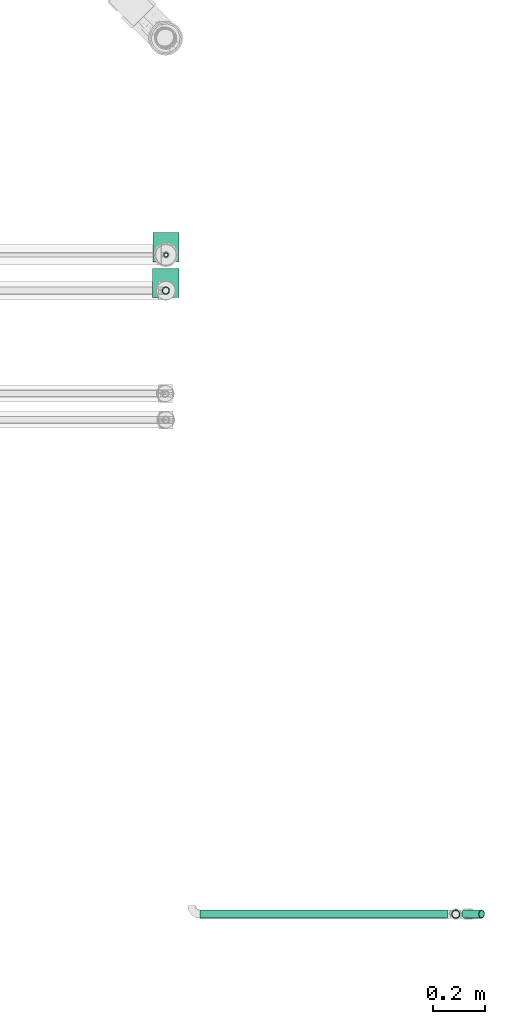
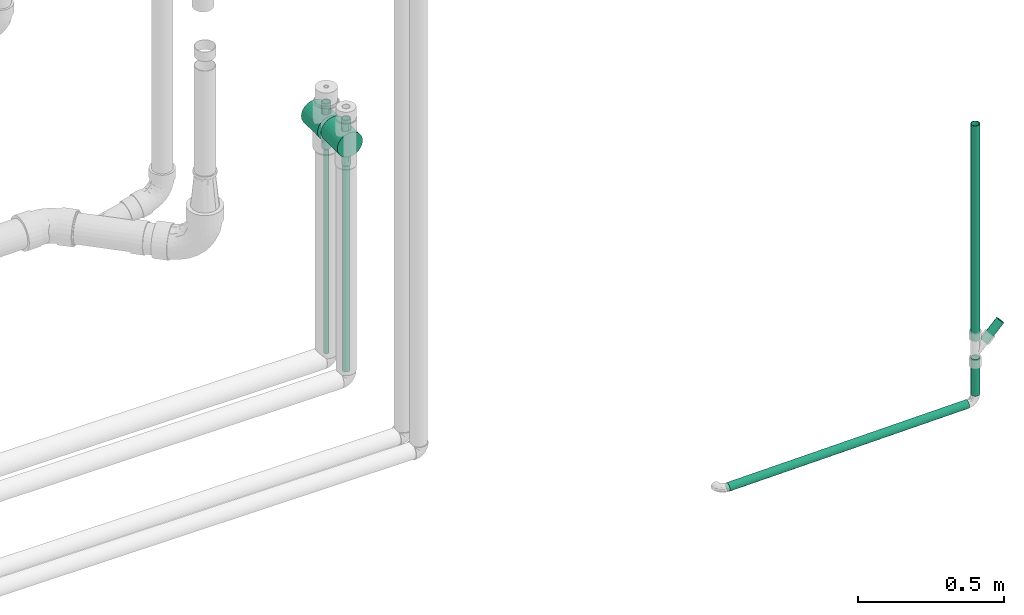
# One storey, part 33 of 83: 6 flow segments, 2 flow controllers.
"""IFC2X3 building model written with IfcOpenShell, lengths in millimetres."""

import ifcopenshell
import ifcopenshell.guid

model = None  # the IFC model being written
_history = None  # IfcOwnerHistory: only IFC2X3 demands one
_inside = {}  # id of a spatial element -> (the spatial element, [elements in it])
_under = {}  # id of a project, library or spatial element -> (it, [spatial elements below it])
_declared = {}  # id of a project -> (the project, [libraries it declares])
_typed = {}  # id of a type object -> (the type object, [elements of that type])
_made_of = {}  # id of a material, layer set ... -> (it, [elements and type objects made of it])


def new_model(schema):
    """Start an empty IFC model of exactly this schema.

    Asked for "IFC4X3", IfcOpenShell would pick the latest addendum, in which some entities
    have other attributes; the version numbers below select the first issue.
    IFC2X3 requires an IfcOwnerHistory on every rooted entity: one is made here for all.
    """
    global model, _history
    if schema == "IFC4X3":
        model = ifcopenshell.file(schema_version=(4, 3, 0, 0))
    else:
        model = ifcopenshell.file(schema=schema)
    _inside.clear()
    _under.clear()
    _declared.clear()
    _typed.clear()
    _made_of.clear()
    _history = None
    if model.schema == "IFC2X3":
        org = make("IfcOrganization", Name="unknown")
        user = make(
            "IfcPersonAndOrganization",
            ThePerson=make("IfcPerson", FamilyName="unknown"),
            TheOrganization=org,
        )
        app = make(
            "IfcApplication",
            ApplicationDeveloper=org,
            Version="unknown",
            ApplicationFullName="unknown",
            ApplicationIdentifier="unknown",
        )
        _history = make(
            "IfcOwnerHistory",
            OwningUser=user,
            OwningApplication=app,
            ChangeAction="ADDED",
            CreationDate=0,
        )
    return model


def make(cls, **values):
    """One entity of the class cls with the attributes given. An attribute that is None is left unset."""
    return model.create_entity(
        cls, **{name: value for name, value in values.items() if value is not None}
    )


def entity(cls, *values):
    """Any entity or typed value of the class cls, its attributes in the order of the schema. None: left unset."""
    e = model.create_entity(cls)
    for i, value in enumerate(values):
        if value is not None:
            e[i] = value
    return e


def rooted(cls, **values):
    """An entity with a GlobalId (a new one), such as an element, a storey or a relation."""
    return make(cls, GlobalId=ifcopenshell.guid.new(), OwnerHistory=_history, **values)


def si_unit(unit_type, name, prefix=None):
    """IfcSIUnit, for example si_unit("LENGTHUNIT", "METRE", prefix="MILLI")."""
    return make("IfcSIUnit", UnitType=unit_type, Prefix=prefix, Name=name)


def converted_unit(unit_type, name, factor, base, dimensions=None, offset=None):
    """IfcConversionBasedUnit, such as the inch: factor (a typed value) times the base unit."""
    return make(
        "IfcConversionBasedUnit"
        if offset is None
        else "IfcConversionBasedUnitWithOffset",
        ConversionOffset=offset,
        Dimensions=None
        if dimensions is None
        else entity("IfcDimensionalExponents", *dimensions),
        UnitType=unit_type,
        Name=name,
        ConversionFactor=make(
            "IfcMeasureWithUnit", ValueComponent=factor, UnitComponent=base
        ),
    )


def derived_unit(unit_type, elements):
    """IfcDerivedUnit: a product of units, each with its exponent."""
    return make(
        "IfcDerivedUnit",
        Elements=[
            make("IfcDerivedUnitElement", Unit=unit, Exponent=power)
            for unit, power in elements
        ],
        UnitType=unit_type,
    )


def assignment(units):
    """IfcUnitAssignment: the units of a project."""
    return None if units is None else make("IfcUnitAssignment", Units=units)


def point(xyz):
    """IfcCartesianPoint."""
    return None if xyz is None else make("IfcCartesianPoint", Coordinates=xyz)


def direction(xyz):
    """IfcDirection."""
    return None if xyz is None else make("IfcDirection", DirectionRatios=xyz)


def frame(location, z_axis=None, x_axis=None):
    """IfcAxis2Placement3D, a coordinate frame: its origin and axes. An axis left out is left unset."""
    return make(
        "IfcAxis2Placement3D",
        Location=point(location),
        Axis=direction(z_axis),
        RefDirection=direction(x_axis),
    )


def frame_2d(location, x_axis=None):
    """IfcAxis2Placement2D, a coordinate frame in the plane: its origin and x axis."""
    return make(
        "IfcAxis2Placement2D", Location=point(location), RefDirection=direction(x_axis)
    )


def origin_with_axes():
    """The frame at (0, 0, 0) with the z axis (0, 0, 1) and the x axis (1, 0, 0) written out."""
    return frame((0.0, 0.0, 0.0), z_axis=(0.0, 0.0, 1.0), x_axis=(1.0, 0.0, 0.0))


def origin_2d_with_axis():
    """The frame at (0, 0) in the plane with the x axis (1, 0) written out."""
    return frame_2d((0.0, 0.0), x_axis=(1.0, 0.0))


def place(relative_to, where):
    """IfcLocalPlacement: puts the frame where relative to a parent placement (None: the world)."""
    return make(
        "IfcLocalPlacement", PlacementRelTo=relative_to, RelativePlacement=where
    )


def context(
    kind, dimensions, precision=None, world=None, true_north=None, identifier=None
):
    """IfcGeometricRepresentationContext, for example the 3D "Model" context."""
    return make(
        "IfcGeometricRepresentationContext",
        ContextIdentifier=identifier,
        ContextType=kind,
        CoordinateSpaceDimension=dimensions,
        Precision=precision,
        WorldCoordinateSystem=world,
        TrueNorth=true_north,
    )


def subcontext(parent, identifier, kind, view, scale=None):
    """IfcGeometricRepresentationSubContext, for example "Body" below "Model"."""
    return make(
        "IfcGeometricRepresentationSubContext",
        ContextIdentifier=identifier,
        ContextType=kind,
        ParentContext=parent,
        TargetScale=scale,
        TargetView=view,
    )


def project(units=None, contexts=None):
    """IfcProject with its units and contexts."""
    return rooted(
        "IfcProject",
        Name="project",
        RepresentationContexts=contexts,
        UnitsInContext=assignment(units),
    )


def spatial(cls, under=None, at=None, **own):
    """A site, building, storey or space (cls), placed at a placement, below another one or the project."""
    s = rooted(cls, ObjectPlacement=at, **own)
    if under is not None:
        _under.setdefault(under.id(), (under, []))[1].append(s)
    return s


def profile(cls, at=None, kind="AREA", **sizes):
    """A parametric profile (cls). Its sizes go by their IFC names, for example OverallWidth=200.0."""
    return make(cls, ProfileType=kind, Position=at, **sizes)


def hollow_circle(**sizes):
    """IfcCircleHollowProfileDef."""
    return profile("IfcCircleHollowProfileDef", **sizes)


def extrude(swept, where, along, depth):
    """IfcExtrudedAreaSolid: the profile swept, set in the frame where, extruded along a direction by depth."""
    return make(
        "IfcExtrudedAreaSolid",
        SweptArea=swept,
        Position=where,
        ExtrudedDirection=direction(along),
        Depth=depth,
    )


def faces_of(points, faces, orient=None, outer=None):
    """IfcFace entities. A face is a list of loops; a loop is a list of indices into points, from 0.

    orient and outer hold one flag for each loop. By default every Orientation is true, the
    first loop of a face is its IfcFaceOuterBound and the others are IfcFaceBound.
    """
    made = []
    for i, loops in enumerate(faces):
        bounds = []
        for j, loop in enumerate(loops):
            is_outer = j == 0 if outer is None else outer[i][j]
            bounds.append(
                make(
                    "IfcFaceOuterBound" if is_outer else "IfcFaceBound",
                    Bound=make("IfcPolyLoop", Polygon=[points[k] for k in loop]),
                    Orientation=True if orient is None else orient[i][j],
                )
            )
        made.append(make("IfcFace", Bounds=bounds))
    return made


def open_shell(faces, orient=None, outer=None):
    """The faces of one IfcOpenShell. surface_model builds it on its shared points."""
    return ("IfcOpenShell", faces, orient, outer)


def surface_model(cls, points, shells):
    """IfcFaceBasedSurfaceModel or IfcShellBasedSurfaceModel (cls): surfaces that need not close."""
    shared = [point(p) for p in points]
    made = [make(c, CfsFaces=faces_of(shared, fs, o, b)) for c, fs, o, b in shells]
    if cls == "IfcFaceBasedSurfaceModel":
        return make(cls, FbsmFaces=made)
    return make(cls, SbsmBoundary=made)


def shape(context_of_items, identifier, shape_type, items):
    """IfcShapeRepresentation: the items that make up one representation, for example the "Body"."""
    return make(
        "IfcShapeRepresentation",
        ContextOfItems=context_of_items,
        RepresentationIdentifier=identifier,
        RepresentationType=shape_type,
        Items=items,
    )


def source(mapping_origin, context_of_items, identifier, shape_type, items):
    """IfcRepresentationMap: a shape defined once, which mapped items show again and again."""
    return make(
        "IfcRepresentationMap",
        MappingOrigin=mapping_origin,
        MappedRepresentation=shape(context_of_items, identifier, shape_type, items),
    )


def transform(
    local_origin,
    x_axis=None,
    y_axis=None,
    z_axis=None,
    scale=None,
    scale2=None,
    scale3=None,
    uniform=True,
):
    """IfcCartesianTransformationOperator3D, or its non-uniform kind. x_axis, y_axis, z_axis: its Axis1, 2, 3."""
    if uniform:
        return make(
            "IfcCartesianTransformationOperator3D",
            Axis1=direction(x_axis),
            Axis2=direction(y_axis),
            LocalOrigin=point(local_origin),
            Scale=scale,
            Axis3=direction(z_axis),
        )
    return make(
        "IfcCartesianTransformationOperator3DnonUniform",
        Axis1=direction(x_axis),
        Axis2=direction(y_axis),
        LocalOrigin=point(local_origin),
        Scale=scale,
        Axis3=direction(z_axis),
        Scale2=scale2,
        Scale3=scale3,
    )


def mapped(mapping_source, mapping_target):
    """IfcMappedItem: shows the shape of a source again, moved by a transform."""
    return make(
        "IfcMappedItem", MappingSource=mapping_source, MappingTarget=mapping_target
    )


def made_of(thing, what):
    """Note that an element or type object is made of a material, layer set ...; save() writes the relation."""
    if what is not None:
        _made_of.setdefault(what.id(), (what, []))[1].append(thing)
    return thing


def type_object(cls, material=None, **own):
    """A type object (cls), such as IfcWallType, which elements share."""
    return made_of(rooted(cls, **own), material)


def element(
    cls,
    number,
    at=None,
    inside=None,
    cuts=None,
    type_object=None,
    material=None,
    context=None,
    identifier="Body",
    shape_type=None,
    held_by="IfcProductDefinitionShape",
    body=None,
    shapes=None,
    **own,
):
    """One element of the class cls, such as IfcWall. Its Tag is "e" and its number.

    at: its placement. inside: the storey or other place that contains it. cuts: it is an
    opening in that element (IfcRelVoidsElement). A single representation is given by context,
    identifier, shape_type and body (its items); several are given by shapes. held_by: the class
    of the entity that holds the representations. save() writes the other relations.
    """
    e = rooted(cls, Tag="e%d" % number, ObjectPlacement=at, **own)
    if body is not None:
        shapes = [shape(context, identifier, shape_type, body)]
    if shapes is not None:
        e.Representation = make(held_by, Representations=shapes)
    if inside is not None:
        _inside.setdefault(inside.id(), (inside, []))[1].append(e)
    if cuts is not None:
        rooted(
            "IfcRelVoidsElement", RelatingBuildingElement=cuts, RelatedOpeningElement=e
        )
    if type_object is not None:
        _typed.setdefault(type_object.id(), (type_object, []))[1].append(e)
    return made_of(e, material)


def aggregate(whole, parts):
    """IfcRelAggregates: a whole, such as a stair, and the parts it consists of."""
    return rooted("IfcRelAggregates", RelatingObject=whole, RelatedObjects=parts)


def save(model, path):
    """Write the relations noted so far, then the file.

    IfcRelAggregates (storeys below a building ...), IfcRelContainedInSpatialStructure (elements
    in a storey), IfcRelDefinesByType, IfcRelAssociatesMaterial and IfcRelDeclares: one each for
    every whole, place, type object, material and project.
    """
    for whole, parts in _under.values():
        aggregate(whole, parts)
    for where, things in _inside.values():
        rooted(
            "IfcRelContainedInSpatialStructure",
            RelatedElements=things,
            RelatingStructure=where,
        )
    for kind, things in _typed.values():
        rooted("IfcRelDefinesByType", RelatedObjects=things, RelatingType=kind)
    for what, things in _made_of.values():
        rooted("IfcRelAssociatesMaterial", RelatedObjects=things, RelatingMaterial=what)
    for by, libraries in _declared.values():
        rooted("IfcRelDeclares", RelatingContext=by, RelatedDefinitions=libraries)
    model.write(path)


model = new_model("IFC2X3")

# Units and contexts
model_context = context("Model", 3, precision=0.01, world=frame((0.0, 4.29681676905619e-09, 0.0)), true_north=direction((4.01073788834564e-13, 1.0)))
plan_context = context("Plan", 3, precision=0.01, world=frame((0.0, 4.29681676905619e-09, 0.0)), true_north=direction((4.01073788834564e-13, 1.0)))
body_context = subcontext(model_context, "Body", "Model", "MODEL_VIEW")
ifc_project = project(units=[converted_unit("PLANEANGLEUNIT", "DEGREE", entity("IfcPositiveLengthMeasure", 0.0174532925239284), si_unit("PLANEANGLEUNIT", "RADIAN"), dimensions=[0, 0, 0, 0, 0, 0, 0]), si_unit("AREAUNIT", "SQUARE_METRE"), si_unit("LENGTHUNIT", "METRE", prefix="MILLI"), si_unit("MASSUNIT", "GRAM", prefix="KILO"), si_unit("POWERUNIT", "WATT"), si_unit("PRESSUREUNIT", "PASCAL"), si_unit("FORCEUNIT", "NEWTON", prefix="KILO"), si_unit("ELECTRICVOLTAGEUNIT", "VOLT"), si_unit("ELECTRICCURRENTUNIT", "AMPERE"), si_unit("THERMODYNAMICTEMPERATUREUNIT", "DEGREE_CELSIUS"), si_unit("TIMEUNIT", "SECOND"), si_unit("VOLUMEUNIT", "CUBIC_METRE"), derived_unit("LINEARVELOCITYUNIT", [(si_unit("LENGTHUNIT", "METRE"), 1), (si_unit("TIMEUNIT", "SECOND"), -1)]), derived_unit("VOLUMETRICFLOWRATEUNIT", [(si_unit("VOLUMEUNIT", "CUBIC_METRE"), 1), (si_unit("TIMEUNIT", "SECOND"), -1)]), derived_unit("THERMALTRANSMITTANCEUNIT", [(si_unit("POWERUNIT", "WATT"), 1), (si_unit("THERMODYNAMICTEMPERATUREUNIT", "KELVIN"), -1), (si_unit("AREAUNIT", "SQUARE_METRE"), -1)]), derived_unit("SOUNDPRESSUREUNIT", [(si_unit("PRESSUREUNIT", "PASCAL"), 1)])], contexts=[model_context, plan_context])

# Site, building, storey
site_placement = place(None, frame((0.0, -4.29681676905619e-09, 0.0), z_axis=(0.0, 0.0, 1.0), x_axis=(1.0, 0.0, 0.0)))
site = spatial("IfcSite", under=ifc_project, at=site_placement, Name="ENGM", CompositionType="ELEMENT")
building_placement = place(site_placement, frame((0.0, 4.29681676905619e-09, 0.0), z_axis=(0.0, 0.0, 1.0), x_axis=(1.0, 0.0, 0.0)))
building = spatial("IfcBuilding", under=site, at=building_placement, Name="TI", CompositionType="ELEMENT")
storey_placement = place(building_placement, frame((0.0, 0.0, 204000.0), z_axis=(0.0, 0.0, 1.0), x_axis=(1.0, 0.0, 0.0)))
storey = spatial("IfcBuildingStorey", under=building, at=storey_placement, Name="Nivå D", CompositionType="ELEMENT", Elevation=204000.0)

# Flow controllers
flow_meter_type = type_object("IfcFlowMeterType", Name="FM-25", PredefinedType="FLOWMETER")
shared_shape_1 = source(origin_with_axes(), body_context, "Body", "SurfaceModel", [
    surface_model("IfcShellBasedSurfaceModel", [(95.0, 3.23524, 12.07407), (95.0, 0.0, 12.5), (49.0, 0.0, 12.5), (95.0, 8.83883, 8.83883), (95.0, 6.25, 10.82532), (48.33584, 8.04029, 9.57098), (48.81207, 4.28742, 11.74172), (47.79058, 10.81944, 6.26017), (95.0, 10.82532, 6.25), (47.42876, 12.30903, 2.17662), (95.0, 12.07407, 3.23524), (95.0, 12.5, 0.0), (47.42891, 12.30846, -2.17985), (95.0, 12.07407, -3.23524), (47.79071, 10.81887, -6.26115), (95.0, 10.82532, -6.25), (95.0, 6.25, -10.82532), (95.0, 8.83883, -8.83883), (48.33654, 8.03611, -9.57449), (95.0, 3.23524, -12.07407), (48.81214, 4.28661, -11.74202), (49.0, 0.0, -12.5), (95.0, 0.0, -12.5), (-95.0, 3.23524, 12.07407), (-48.81207, 4.28742, 11.74172), (-49.0, 0.0, 12.5), (-47.79058, 10.81944, 6.26017), (-48.33584, 8.04029, 9.57098), (-95.0, 8.83883, 8.83883), (-95.0, 6.25, 10.82532), (-95.0, 12.07407, 3.23524), (-47.42876, 12.30903, 2.17662), (-95.0, 0.0, 12.5), (-95.0, 10.82532, 6.25), (-95.0, 12.5, 0.0), (-47.42891, 12.30846, -2.17985), (-95.0, 12.07407, -3.23524), (-47.79071, 10.81887, -6.26115), (-95.0, 8.83883, -8.83883), (-48.33654, 8.03611, -9.57449), (-49.0, 0.0, -12.5), (-48.81214, 4.28661, -11.74202), (-95.0, 3.23524, -12.07407), (-95.0, 6.25, -10.82532), (-95.0, 0.0, -12.5), (-95.0, 10.82532, -6.25), (95.0, -3.23524, -12.07407), (95.0, -8.83883, -8.83883), (95.0, -6.25, -10.82532), (48.33654, -8.03611, -9.57449), (48.81214, -4.28661, -11.74202), (47.79071, -10.81887, -6.26115), (95.0, -10.82532, -6.25), (47.42891, -12.30846, -2.17985), (95.0, -12.07407, -3.23524), (95.0, -12.5, 0.0), (47.42876, -12.30903, 2.17662), (95.0, -12.07407, 3.23524), (47.79058, -10.81944, 6.26017), (95.0, -10.82532, 6.25), (95.0, -8.83883, 8.83883), (95.0, -6.25, 10.82532), (48.33584, -8.04029, 9.57098), (95.0, -3.23524, 12.07407), (48.81207, -4.28742, 11.74172), (-95.0, -3.23524, -12.07407), (-48.81214, -4.28661, -11.74202), (-47.79071, -10.81887, -6.26115), (-48.33654, -8.03611, -9.57449), (-95.0, -8.83883, -8.83883), (-95.0, -6.25, -10.82532), (-95.0, -12.07407, -3.23524), (-47.42891, -12.30846, -2.17985), (-95.0, -10.82532, -6.25), (-95.0, -12.5, 0.0), (-47.42876, -12.30903, 2.17662), (-95.0, -12.07407, 3.23524), (-47.79058, -10.81944, 6.26017), (-95.0, -8.83883, 8.83883), (-48.33584, -8.04029, 9.57098), (-95.0, -3.23524, 12.07407), (-48.81207, -4.28742, 11.74172), (-95.0, -6.25, 10.82532), (-95.0, -10.82532, 6.25), (-12.94095, 48.29629, 85.0), (-25.0, 43.30127, 85.0), (-35.35534, 35.35534, 85.0), (-43.30127, 25.0, 85.0), (-48.29629, 12.94095, 85.0), (25.0, 43.30127, 85.0), (50.0, 0.0, 85.0), (12.94095, 48.29629, 85.0), (0.0, 50.0, 85.0), (35.35534, 35.35534, 85.0), (48.29629, 12.94095, 85.0), (43.30127, 25.0, 85.0), (-48.29629, -12.94095, 85.0), (-50.0, 0.0, 85.0), (-43.30127, -25.0, 85.0), (-35.35534, -35.35534, 85.0), (0.0, -50.0, 85.0), (-12.94095, -48.29629, 85.0), (-25.0, -43.30127, 85.0), (35.35534, -35.35534, 85.0), (48.29629, -12.94095, 85.0), (43.30127, -25.0, 85.0), (12.94095, -48.29629, 85.0), (25.0, -43.30127, 85.0), (-48.29629, -12.94095, -26.5), (0.0, -50.0, -26.5), (-12.94095, -48.29629, -26.5), (-25.0, -43.30127, -26.5), (-35.35534, -35.35534, -26.5), (-43.30127, -25.0, -26.5), (35.35534, -35.35534, -26.5), (12.94095, -48.29629, -26.5), (25.0, -43.30127, -26.5), (48.29629, -12.94095, -26.5), (43.30127, -25.0, -26.5), (25.0, 43.30127, -26.5), (48.29629, 12.94095, -26.5), (50.0, 0.0, -26.5), (-48.29629, 12.94095, -26.5), (-12.94095, 48.29629, -26.5), (-43.30127, 25.0, -26.5), (-35.35534, 35.35534, -26.5), (-25.0, 43.30127, -26.5), (35.35534, 35.35534, -26.5), (43.30127, 25.0, -26.5), (12.94095, 48.29629, -26.5), (0.0, 50.0, -26.5), (-50.0, 0.0, -26.5), (48.85971, 10.61736, -12.63018), (48.72222, 9.70571, -26.5), (49.57407, 3.23524, -26.5), (49.83866, 2.83562, -15.99737), (49.14814, 6.47048, -26.5), (49.67733, 5.67124, -15.49474), (47.91841, 14.27678, -8.27185), (47.28715, 16.24578, 2.88524), (45.79878, 18.97048, -26.5), (-48.86088, 10.61196, -12.63473), (-48.72222, 9.70571, -26.5), (-49.83873, 2.83504, -15.99758), (-49.57407, 3.23524, -26.5), (48.86088, 10.61196, 12.63473), (47.91864, 14.27601, 8.27319), (49.67746, 5.67008, 15.49517), (50.0, 0.0, 16.5), (47.28688, 16.24656, -2.88086), (-47.28688, 16.24656, 2.88086), (-45.79878, 18.97048, -26.5), (-47.28715, 16.24578, -2.88524), (-47.91864, 14.27601, -8.27319), (-50.0, 0.0, -16.5), (-49.67746, 5.67008, -15.49517), (50.0, 0.0, -16.5), (-49.14814, 6.47048, -26.5), (-48.85971, 10.61736, 12.63018), (-49.67733, 5.67124, 15.49474), (-47.91841, 14.27678, 8.27185), (-50.0, 0.0, 16.5), (-48.86088, -10.61196, -12.63473), (-48.72222, -9.70571, -26.5), (-49.57407, -3.23524, -26.5), (-49.83873, -2.83504, -15.99758), (-49.14814, -6.47048, -26.5), (-49.67746, -5.67008, -15.49517), (-47.91864, -14.27601, -8.27319), (-47.28688, -16.24656, 2.88086), (-45.79878, -18.97048, -26.5), (49.83866, -2.83562, -15.99737), (49.57407, -3.23524, -26.5), (-48.85971, -10.61736, 12.63018), (-47.91841, -14.27678, 8.27185), (-49.67733, -5.67124, 15.49474), (-47.28715, -16.24578, -2.88524), (48.85971, -10.61736, -12.63018), (48.72222, -9.70571, -26.5), (49.67733, -5.67124, -15.49474), (45.79878, -18.97048, -26.5), (47.28715, -16.24578, 2.88524), (47.91841, -14.27678, -8.27185), (49.14814, -6.47048, -26.5), (47.28688, -16.24656, -2.88086), (48.86088, -10.61196, 12.63473), (49.67746, -5.67008, 15.49517), (47.91864, -14.27601, 8.27319), (95.0, -14.28942, -8.25), (95.0, -11.66726, -11.66726), (95.0, -15.93778, -4.27051), (95.0, -16.5, 0.0), (95.0, -8.25, -14.28942), (95.0, -4.27051, -15.93778), (95.0, 0.0, -16.5), (95.0, -15.93778, 4.27051), (95.0, -11.66726, 11.66726), (95.0, -14.28942, 8.25), (95.0, -8.25, 14.28942), (95.0, -4.27051, 15.93778), (95.0, 0.0, 16.5), (95.0, 4.27051, -15.93778), (95.0, 8.25, -14.28942), (95.0, 11.66726, -11.66726), (95.0, 14.28942, -8.25), (95.0, 15.93778, -4.27051), (95.0, 16.5, 0.0), (95.0, 8.25, 14.28942), (95.0, 11.66726, 11.66726), (95.0, 4.27051, 15.93778), (95.0, 15.93778, 4.27051), (95.0, 14.28942, 8.25), (-95.0, 14.28942, -8.25), (-95.0, 11.66726, -11.66726), (-95.0, 15.93778, -4.27051), (-95.0, 16.5, 0.0), (-95.0, 8.25, -14.28942), (-95.0, 4.27051, -15.93778), (-95.0, 0.0, -16.5), (-95.0, 15.93778, 4.27051), (-95.0, 11.66726, 11.66726), (-95.0, 14.28942, 8.25), (-95.0, 8.25, 14.28942), (-95.0, 4.27051, 15.93778), (-95.0, 0.0, 16.5), (-95.0, -4.27051, -15.93778), (-95.0, -8.25, -14.28942), (-95.0, -11.66726, -11.66726), (-95.0, -14.28942, -8.25), (-95.0, -15.93778, -4.27051), (-95.0, -16.5, 0.0), (-95.0, -8.25, 14.28942), (-95.0, -11.66726, 11.66726), (-95.0, -4.27051, 15.93778), (-95.0, -15.93778, 4.27051), (-95.0, -14.28942, 8.25), (47.60264, 15.26167, -5.57635), (49.83873, 2.83504, 15.99758), (47.60289, 15.26089, 5.57921), (47.28702, 16.24617, 0.00219), (-49.83866, 2.83562, 15.99737), (-47.60289, 15.26089, -5.57921), (-47.60264, 15.26167, 5.57635), (-47.28702, 16.24617, -0.00219), (47.60264, -15.26167, -5.57635), (47.60289, -15.26089, 5.57921), (49.83873, -2.83504, 15.99758), (47.28702, -16.24617, 0.00219), (-47.60289, -15.26089, -5.57921), (-47.60264, -15.26167, 5.57635), (-47.28702, -16.24617, -0.00219), (-49.83866, -2.83562, 15.99737), (47.33036, -12.68213, -25.5), (24.5, 42.43525, -25.5), (42.43525, -24.5, -25.5), (34.64823, -34.64823, -25.5), (24.5, -42.43525, -25.5), (-12.68213, 47.33036, -25.5), (12.68213, -47.33036, -25.5), (47.33036, 12.68213, -25.5), (42.43525, 24.5, -25.5), (49.0, 0.0, -25.5), (34.64823, 34.64823, -25.5), (12.68213, 47.33036, -25.5), (0.0, 49.0, -25.5), (-12.68213, -47.33036, -25.5), (0.0, -49.0, -25.5), (-34.64823, -34.64823, -25.5), (-24.5, -42.43525, -25.5), (-49.0, 0.0, -25.5), (-47.33036, -12.68213, -25.5), (-42.43525, -24.5, -25.5), (-24.5, 42.43525, -25.5), (-34.64823, 34.64823, -25.5), (-42.43525, 24.5, -25.5), (-47.33036, 12.68213, -25.5), (-42.43525, -24.5, 84.0), (-47.33036, -12.68213, 84.0), (-49.0, 0.0, 84.0), (-12.68213, 47.33036, 84.0), (-12.68213, -47.33036, 84.0), (-24.5, -42.43525, 84.0), (-34.64823, -34.64823, 84.0), (42.43525, -24.5, 84.0), (-42.43525, 24.5, 84.0), (-34.64823, 34.64823, 84.0), (-47.33036, 12.68213, 84.0), (-24.5, 42.43525, 84.0), (0.0, 49.0, 84.0), (24.5, 42.43525, 84.0), (12.68213, -47.33036, 84.0), (24.5, -42.43525, 84.0), (34.64823, -34.64823, 84.0), (34.64823, 34.64823, 84.0), (49.0, 0.0, 84.0), (47.33036, -12.68213, 84.0), (12.68213, 47.33036, 84.0), (47.33036, 12.68213, 84.0), (42.43525, 24.5, 84.0), (0.0, -49.0, 84.0), (48.58259, -3.17053, -25.5), (48.16518, -6.34107, -25.5), (48.58259, 3.17053, -25.5), (48.16518, 6.34107, -25.5), (47.74778, 9.5116, -25.5), (47.74778, -9.5116, -25.5), (-48.58259, -3.17053, -25.5), (-48.58259, 3.17053, -25.5), (-48.16518, 6.34107, -25.5), (-48.16518, -6.34107, -25.5), (-47.74778, -9.5116, -25.5), (-47.74778, 9.5116, -25.5)], [open_shell([[[0, 1, 2]], [[3, 4, 5]], [[6, 4, 0]], [[7, 8, 3]], [[6, 0, 2]], [[5, 4, 6]], [[9, 10, 7]], [[3, 5, 7]], [[11, 10, 9]], [[10, 8, 7]], [[11, 12, 13]], [[13, 14, 15]], [[16, 17, 18]], [[14, 17, 15]], [[19, 16, 20]], [[14, 18, 17]], [[13, 12, 14]], [[20, 21, 19]], [[16, 18, 20]], [[21, 22, 19]], [[9, 12, 11]], [[23, 24, 25]], [[26, 27, 28]], [[29, 27, 24]], [[26, 30, 31]], [[32, 23, 25]], [[23, 29, 24]], [[27, 29, 28]], [[28, 33, 26]], [[33, 30, 26]], [[30, 34, 31]], [[35, 36, 37]], [[37, 38, 39]], [[40, 41, 42]], [[43, 41, 39]], [[44, 40, 42]], [[34, 36, 35]], [[45, 37, 36]], [[39, 38, 43]], [[41, 43, 42]], [[38, 37, 45]], [[31, 34, 35]], [[46, 22, 21]], [[47, 48, 49]], [[50, 48, 46]], [[51, 52, 47]], [[50, 46, 21]], [[49, 48, 50]], [[53, 54, 51]], [[47, 49, 51]], [[55, 54, 53]], [[54, 52, 51]], [[55, 56, 57]], [[57, 58, 59]], [[59, 58, 60]], [[61, 60, 62]], [[58, 62, 60]], [[57, 56, 58]], [[2, 63, 64]], [[61, 62, 64]], [[1, 63, 2]], [[63, 61, 64]], [[53, 56, 55]], [[65, 66, 40]], [[67, 68, 69]], [[70, 68, 66]], [[67, 71, 72]], [[40, 44, 65]], [[66, 65, 70]], [[67, 69, 73]], [[67, 73, 71]], [[69, 68, 70]], [[71, 74, 72]], [[75, 76, 77]], [[77, 78, 79]], [[80, 25, 81]], [[32, 25, 80]], [[82, 81, 79]], [[82, 80, 81]], [[75, 74, 76]], [[77, 76, 83]], [[79, 78, 82]], [[78, 77, 83]], [[72, 74, 75]], [[84, 85, 86]], [[84, 86, 87]], [[84, 88, 89]], [[88, 84, 87]], [[90, 89, 88]], [[84, 91, 92]], [[84, 89, 91]], [[93, 94, 95]], [[94, 93, 89]], [[89, 90, 94]], [[96, 88, 97]], [[96, 98, 99]], [[96, 99, 100]], [[101, 100, 99]], [[101, 99, 102]], [[96, 100, 103]], [[104, 103, 105]], [[104, 90, 96]], [[103, 106, 107]], [[104, 96, 103]], [[100, 106, 103]], [[96, 90, 88]], [[108, 109, 110]], [[108, 110, 111]], [[112, 113, 108]], [[112, 108, 111]], [[109, 108, 114]], [[115, 114, 116]], [[115, 109, 114]], [[114, 117, 118]], [[117, 114, 119]], [[120, 121, 117]], [[119, 114, 108]], [[108, 122, 119]], [[123, 122, 124]], [[125, 126, 123]], [[125, 123, 124]], [[119, 122, 123]], [[120, 127, 128]], [[127, 120, 119]], [[123, 129, 119]], [[120, 117, 119]], [[130, 129, 123]], [[122, 108, 131]], [[120, 132, 133]], [[121, 134, 135]], [[136, 133, 137]], [[120, 138, 132]], [[119, 93, 127]], [[129, 89, 119]], [[139, 140, 128]], [[140, 138, 120]], [[127, 95, 128]], [[129, 130, 91]], [[141, 122, 142]], [[131, 143, 144]], [[145, 146, 94]], [[147, 145, 94]], [[147, 90, 148]], [[90, 147, 94]], [[146, 139, 94]], [[140, 139, 149]], [[137, 133, 132]], [[128, 95, 139]], [[139, 95, 94]], [[93, 95, 127]], [[119, 89, 93]], [[129, 91, 89]], [[150, 151, 152]], [[130, 92, 91]], [[86, 125, 124]], [[84, 123, 126]], [[125, 85, 126]], [[151, 150, 124]], [[122, 153, 151]], [[131, 154, 143]], [[144, 143, 155]], [[121, 135, 156]], [[141, 153, 122]], [[142, 157, 155]], [[134, 137, 135]], [[138, 140, 149]], [[153, 152, 151]], [[123, 84, 92]], [[87, 124, 150]], [[126, 85, 84]], [[86, 85, 125]], [[124, 87, 86]], [[150, 88, 87]], [[137, 134, 136]], [[142, 155, 141]], [[158, 159, 88]], [[160, 158, 88]], [[159, 97, 88]], [[97, 159, 161]], [[155, 157, 144]], [[160, 88, 150]], [[123, 92, 130]], [[108, 162, 163]], [[131, 164, 165]], [[166, 163, 167]], [[108, 168, 162]], [[111, 99, 112]], [[110, 102, 111]], [[169, 170, 113]], [[170, 168, 108]], [[121, 171, 172]], [[112, 99, 113]], [[110, 109, 101]], [[164, 167, 165]], [[131, 165, 154]], [[173, 174, 96]], [[175, 173, 96]], [[161, 175, 97]], [[97, 175, 96]], [[174, 169, 96]], [[169, 176, 170]], [[113, 98, 169]], [[169, 98, 96]], [[168, 170, 176]], [[99, 98, 113]], [[111, 102, 99]], [[110, 101, 102]], [[177, 117, 178]], [[178, 179, 177]], [[109, 100, 101]], [[103, 114, 118]], [[106, 115, 116]], [[114, 107, 116]], [[180, 181, 118]], [[117, 182, 180]], [[121, 156, 171]], [[172, 171, 179]], [[167, 163, 162]], [[177, 182, 117]], [[178, 183, 179]], [[167, 164, 166]], [[182, 184, 180]], [[115, 106, 100]], [[105, 118, 181]], [[116, 107, 106]], [[103, 107, 114]], [[118, 105, 103]], [[181, 104, 105]], [[181, 180, 184]], [[179, 183, 172]], [[185, 186, 104]], [[187, 185, 104]], [[186, 90, 104]], [[90, 186, 148]], [[187, 104, 181]], [[115, 100, 109]], [[188, 189, 52]], [[52, 189, 47]], [[188, 52, 54]], [[190, 54, 55]], [[54, 190, 188]], [[190, 55, 191]], [[46, 192, 193]], [[22, 193, 194]], [[46, 193, 22]], [[48, 47, 192]], [[46, 48, 192]], [[192, 47, 189]], [[191, 57, 195]], [[57, 191, 55]], [[195, 57, 59]], [[196, 197, 60]], [[59, 197, 195]], [[60, 197, 59]], [[61, 63, 198]], [[61, 198, 196]], [[63, 199, 198]], [[199, 63, 1]], [[199, 1, 200]], [[61, 196, 60]], [[19, 194, 201]], [[16, 201, 202]], [[16, 19, 201]], [[17, 16, 202]], [[202, 203, 17]], [[15, 203, 204]], [[203, 15, 17]], [[15, 204, 13]], [[13, 205, 11]], [[205, 13, 204]], [[11, 205, 206]], [[207, 4, 208]], [[0, 4, 209]], [[0, 209, 200]], [[209, 4, 207]], [[4, 3, 208]], [[200, 1, 0]], [[10, 206, 210]], [[206, 10, 11]], [[10, 210, 8]], [[211, 208, 3]], [[211, 8, 210]], [[211, 3, 8]], [[19, 22, 194]], [[212, 213, 45]], [[45, 213, 38]], [[212, 45, 36]], [[214, 36, 34]], [[36, 214, 212]], [[214, 34, 215]], [[42, 216, 217]], [[44, 217, 218]], [[42, 217, 44]], [[43, 38, 216]], [[42, 43, 216]], [[216, 38, 213]], [[215, 30, 219]], [[30, 215, 34]], [[219, 30, 33]], [[220, 221, 28]], [[33, 221, 219]], [[28, 221, 33]], [[29, 23, 222]], [[29, 222, 220]], [[23, 223, 222]], [[223, 23, 32]], [[223, 32, 224]], [[29, 220, 28]], [[65, 218, 225]], [[70, 225, 226]], [[70, 65, 225]], [[69, 70, 226]], [[226, 227, 69]], [[73, 227, 228]], [[227, 73, 69]], [[73, 228, 71]], [[71, 229, 74]], [[229, 71, 228]], [[74, 229, 230]], [[231, 82, 232]], [[80, 82, 233]], [[80, 233, 224]], [[233, 82, 231]], [[82, 78, 232]], [[224, 32, 80]], [[76, 230, 234]], [[230, 76, 74]], [[76, 234, 83]], [[235, 232, 78]], [[235, 83, 234]], [[235, 78, 83]], [[65, 44, 218]], [[147, 209, 207]], [[146, 208, 211]], [[207, 208, 145]], [[204, 236, 205]], [[200, 209, 237]], [[148, 200, 237]], [[209, 147, 237]], [[135, 194, 156]], [[145, 147, 207]], [[208, 146, 145]], [[238, 146, 211]], [[210, 139, 238]], [[135, 137, 201]], [[206, 149, 239]], [[204, 138, 236]], [[203, 138, 204]], [[137, 202, 201]], [[203, 202, 132]], [[149, 206, 205]], [[236, 149, 205]], [[239, 139, 206]], [[238, 211, 210]], [[138, 203, 132]], [[132, 202, 137]], [[206, 139, 210]], [[194, 135, 201]], [[224, 240, 223]], [[240, 159, 223]], [[220, 158, 160]], [[241, 212, 214]], [[159, 158, 222]], [[219, 242, 150]], [[159, 222, 223]], [[221, 242, 219]], [[158, 220, 222]], [[160, 221, 220]], [[242, 221, 160]], [[215, 219, 150]], [[241, 153, 212]], [[215, 150, 243]], [[215, 243, 152]], [[214, 152, 241]], [[240, 224, 161]], [[215, 152, 214]], [[216, 141, 155]], [[213, 153, 141]], [[154, 218, 143]], [[217, 155, 143]], [[153, 213, 212]], [[216, 213, 141]], [[155, 217, 216]], [[217, 143, 218]], [[193, 171, 194]], [[191, 184, 190]], [[244, 188, 190]], [[244, 182, 188]], [[197, 245, 195]], [[193, 179, 171]], [[246, 200, 148]], [[179, 193, 192]], [[171, 156, 194]], [[179, 192, 177]], [[188, 182, 189]], [[190, 184, 244]], [[189, 182, 177]], [[189, 177, 192]], [[191, 181, 247]], [[197, 187, 245]], [[196, 187, 197]], [[186, 198, 199]], [[196, 198, 185]], [[181, 191, 195]], [[245, 181, 195]], [[247, 184, 191]], [[187, 196, 185]], [[185, 198, 186]], [[200, 246, 199]], [[246, 186, 199]], [[218, 165, 225]], [[227, 162, 168]], [[167, 162, 226]], [[229, 248, 176]], [[249, 174, 235]], [[228, 248, 229]], [[226, 225, 167]], [[230, 169, 234]], [[165, 167, 225]], [[228, 227, 168]], [[168, 248, 228]], [[165, 218, 154]], [[226, 162, 227]], [[249, 235, 234]], [[230, 229, 176]], [[230, 176, 250]], [[230, 250, 169]], [[234, 169, 249]], [[231, 173, 175]], [[232, 174, 173]], [[161, 224, 251]], [[174, 232, 235]], [[233, 175, 251]], [[231, 232, 173]], [[233, 231, 175]], [[233, 251, 224]], [[252, 253, 254]], [[255, 254, 256]], [[254, 253, 257]], [[256, 254, 258]], [[257, 258, 254]], [[259, 260, 261]], [[262, 261, 260]], [[261, 262, 252]], [[262, 253, 252]], [[263, 264, 253]], [[265, 266, 258]], [[267, 268, 265]], [[257, 267, 258]], [[269, 270, 271]], [[257, 271, 267]], [[271, 257, 269]], [[272, 273, 257]], [[257, 253, 264]], [[274, 275, 273]], [[269, 257, 273]], [[269, 273, 275]], [[267, 265, 258]], [[276, 277, 278]], [[276, 278, 279]], [[280, 281, 282]], [[279, 282, 276]], [[279, 283, 282]], [[284, 285, 286]], [[279, 286, 285]], [[287, 279, 285]], [[279, 278, 286]], [[288, 289, 279]], [[280, 282, 283]], [[280, 283, 290]], [[291, 290, 292]], [[283, 279, 293]], [[292, 290, 283]], [[283, 294, 295]], [[279, 289, 293]], [[289, 288, 296]], [[297, 294, 298]], [[293, 298, 294]], [[283, 293, 294]], [[299, 280, 290]], [[289, 253, 293]], [[288, 264, 296]], [[263, 289, 296]], [[298, 293, 262]], [[294, 297, 6]], [[64, 294, 2]], [[2, 294, 6]], [[300, 301, 50]], [[297, 7, 5]], [[297, 5, 6]], [[9, 297, 298]], [[297, 9, 7]], [[253, 289, 263]], [[253, 262, 293]], [[260, 298, 262]], [[264, 263, 296]], [[50, 301, 49]], [[20, 302, 21]], [[259, 14, 12]], [[260, 259, 12]], [[303, 20, 18]], [[18, 14, 304]], [[14, 259, 304]], [[9, 260, 12]], [[260, 9, 298]], [[295, 64, 62]], [[303, 302, 20]], [[295, 58, 56]], [[56, 53, 254]], [[49, 305, 51]], [[58, 295, 62]], [[304, 303, 18]], [[291, 292, 255]], [[290, 291, 256]], [[283, 56, 254]], [[292, 283, 254]], [[283, 295, 56]], [[299, 290, 258]], [[305, 49, 301]], [[21, 300, 50]], [[300, 21, 261]], [[21, 302, 261]], [[305, 252, 51]], [[51, 252, 53]], [[53, 252, 254]], [[255, 292, 254]], [[291, 255, 256]], [[290, 256, 258]], [[258, 266, 299]], [[295, 294, 64]], [[281, 267, 282]], [[280, 299, 265]], [[276, 282, 267]], [[280, 268, 281]], [[278, 277, 81]], [[24, 278, 25]], [[25, 278, 81]], [[66, 306, 40]], [[277, 77, 79]], [[277, 79, 81]], [[75, 277, 276]], [[277, 75, 77]], [[307, 308, 41]], [[267, 281, 268]], [[268, 280, 265]], [[267, 271, 276]], [[299, 266, 265]], [[309, 306, 66]], [[41, 308, 39]], [[270, 67, 72]], [[271, 270, 72]], [[309, 66, 68]], [[68, 67, 310]], [[67, 270, 310]], [[75, 271, 72]], [[271, 75, 276]], [[286, 24, 27]], [[310, 309, 68]], [[286, 26, 31]], [[31, 35, 274]], [[26, 286, 27]], [[39, 311, 37]], [[287, 285, 273]], [[279, 287, 272]], [[284, 31, 274]], [[285, 284, 274]], [[284, 286, 31]], [[288, 279, 257]], [[311, 39, 308]], [[40, 307, 41]], [[307, 40, 269]], [[40, 306, 269]], [[311, 275, 37]], [[37, 275, 35]], [[35, 275, 274]], [[273, 285, 274]], [[287, 273, 272]], [[279, 272, 257]], [[257, 264, 288]], [[286, 278, 24]]])]),
])
for number, where, z_axis, x_axis, name in (
    (1, (609131.50429, 691635.97914, 7204.94321), (0.0, 1.0, 0.0), (0.0, 0.0, -1.0), "FM-25"),
    (2, (609131.9743, 691772.72914, 7191.33984), (0.0, 1.0, 0.0), (0.0, 0.0, -1.0), "FM-25"),
):
    element("IfcFlowController", number, at=place(storey_placement, frame(where, z_axis=z_axis, x_axis=x_axis)), inside=storey, type_object=flow_meter_type, Name=name, context=body_context, shape_type="MappedRepresentation", body=[
        mapped(shared_shape_1, transform((0.0, 0.0, 0.0), scale=1.0)),
    ])

# Flow segments
pipe_segment_type_1 = type_object("IfcPipeSegmentType", Name="PP avløpsrør", PredefinedType="RIGIDSEGMENT")
shared_shape_2 = source(origin_with_axes(), body_context, "Body", "SweptSolid", [
    extrude(hollow_circle(Radius=16.0, WallThickness=2.0, at=origin_2d_with_axis()), frame((0.0, 0.0, 0.0), z_axis=(1.0, 0.0, 0.0), x_axis=(0.0, 1.0, 0.0)), (0.0, 0.0, 1.0), 152.4),
])
flow_segment_1_placement = place(storey_placement, frame((610240.26511, 689251.68976, 7358.73327999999), z_axis=(0.0, -1.0, 0.0), x_axis=(0.0, 0.0, -1.0)))
element("IfcFlowSegment", 3, at=flow_segment_1_placement, inside=storey, type_object=pipe_segment_type_1, Name="PP avløpsrør", context=body_context, shape_type="MappedRepresentation", body=[
    mapped(shared_shape_2, transform((0.0, 0.0, 0.0), scale=1.0)),
])
shared_shape_3 = source(origin_with_axes(), body_context, "Body", "SweptSolid", [
    extrude(hollow_circle(Radius=16.0, WallThickness=2.0, at=origin_2d_with_axis()), frame((0.0, 0.0, 0.0), z_axis=(1.0, 0.0, 0.0), x_axis=(0.0, 1.0, 0.0)), (0.0, 0.0, 1.0), 946.7),
])
flow_segment_2_placement = place(storey_placement, frame((610208.79837, 689251.68976, 7174.32503000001), z_axis=(-0.0166640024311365, 0.0, 0.999861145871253), x_axis=(-0.999861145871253, 0.0, -0.0166640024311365)))
element("IfcFlowSegment", 4, at=flow_segment_2_placement, inside=storey, type_object=pipe_segment_type_1, Name="PP avløpsrør", context=body_context, shape_type="MappedRepresentation", body=[
    mapped(shared_shape_3, transform((0.0, 0.0, 0.0), scale=1.0)),
])
shared_shape_4 = source(origin_with_axes(), body_context, "Body", "SweptSolid", [
    extrude(hollow_circle(Radius=16.0, WallThickness=2.0, at=origin_2d_with_axis()), frame((0.0, 0.0, 0.0), z_axis=(1.0, 0.0, 0.0), x_axis=(0.0, 1.0, 0.0)), (0.0, 0.0, 1.0), 91.4),
])
flow_segment_3_placement = place(storey_placement, frame((610274.64988, 689251.68976, 7414.43177), z_axis=(-0.707106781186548, 0.0, 0.707106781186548), x_axis=(0.707106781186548, 0.0, 0.707106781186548)))
element("IfcFlowSegment", 5, at=flow_segment_3_placement, inside=storey, type_object=pipe_segment_type_1, Name="PP avløpsrør", context=body_context, shape_type="MappedRepresentation", body=[
    mapped(shared_shape_4, transform((0.0, 0.0, 0.0), scale=1.0)),
])
shared_shape_5 = source(origin_with_axes(), body_context, "Body", "SweptSolid", [
    extrude(hollow_circle(Radius=16.0, WallThickness=2.0, at=origin_2d_with_axis()), frame((0.0, 0.0, 0.0), z_axis=(1.0, 0.0, 0.0), x_axis=(0.0, 1.0, 0.0)), (0.0, 0.0, 1.0), 899.1),
])
flow_segment_4_placement = place(storey_placement, frame((610240.26511, 689251.68976, 8334.84948), z_axis=(0.0, -1.0, 0.0), x_axis=(0.0, 0.0, -1.0)))
element("IfcFlowSegment", 6, at=flow_segment_4_placement, inside=storey, type_object=pipe_segment_type_1, Name="PP avløpsrør", context=body_context, shape_type="MappedRepresentation", body=[
    mapped(shared_shape_5, transform((0.0, 0.0, 0.0), scale=1.0)),
])
pipe_segment_type_2 = type_object("IfcPipeSegmentType", Name="Kobberrør", PredefinedType="RIGIDSEGMENT")
shared_shape_6 = source(origin_with_axes(), body_context, "Body", "SweptSolid", [
    extrude(hollow_circle(Radius=14.0, WallThickness=2.0, at=origin_2d_with_axis()), frame((0.0, 0.0, 0.0), z_axis=(1.0, 0.0, 0.0), x_axis=(0.0, 1.0, 0.0)), (0.0, 0.0, 1.0), 858.9),
])
flow_segment_5_placement = place(storey_placement, frame((609131.50429, 691635.97914, 6248.0), z_axis=(0.0, 1.0, 0.0), x_axis=(0.0, 0.0, 1.0)))
element("IfcFlowSegment", 7, at=flow_segment_5_placement, inside=storey, type_object=pipe_segment_type_2, Name="Kobberrør", context=body_context, shape_type="MappedRepresentation", body=[
    mapped(shared_shape_6, transform((0.0, 0.0, 0.0), scale=1.0)),
])
shared_shape_7 = source(origin_with_axes(), body_context, "Body", "SweptSolid", [
    extrude(hollow_circle(Radius=9.0, WallThickness=2.0, at=origin_2d_with_axis()), frame((0.0, 0.0, 0.0), z_axis=(1.0, 0.0, 0.0), x_axis=(0.0, 1.0, 0.0)), (0.0, 0.0, 1.0), 851.3),
])
flow_segment_6_placement = place(storey_placement, frame((609131.9743, 691772.72914, 6238.0), z_axis=(0.0, 1.0, 0.0), x_axis=(0.0, 0.0, 1.0)))
element("IfcFlowSegment", 8, at=flow_segment_6_placement, inside=storey, type_object=pipe_segment_type_2, Name="Kobberrør", context=body_context, shape_type="MappedRepresentation", body=[
    mapped(shared_shape_7, transform((0.0, 0.0, 0.0), scale=1.0)),
])

save(model, "model.ifc")
